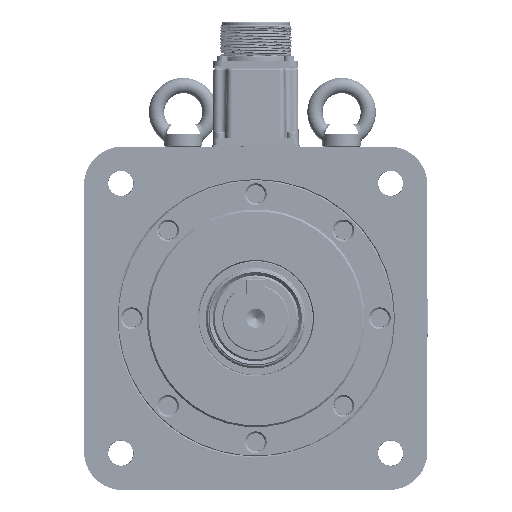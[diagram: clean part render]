
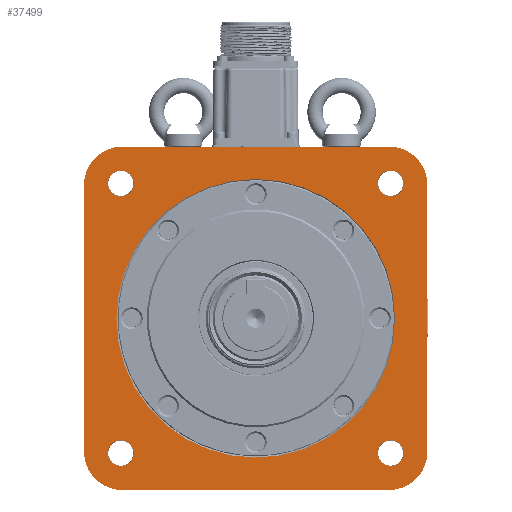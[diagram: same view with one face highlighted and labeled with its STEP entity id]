
A CAD part, front view. The second image highlights one B-rep face of the part: STEP entity #37499.
In plain terms, the highlighted planar face has unit normal (0, -1, 0).
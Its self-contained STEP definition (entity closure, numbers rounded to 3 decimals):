
#2860=LINE('',#69298,#5472);
#2942=LINE('',#73565,#5554);
#2947=LINE('',#73573,#5559);
#2952=LINE('',#73581,#5564);
#5472=VECTOR('',#48283,1000.);
#5554=VECTOR('',#49211,1000.);
#5559=VECTOR('',#49218,1000.);
#5564=VECTOR('',#49225,1000.);
#8067=PLANE('',#41072);
#15106=ORIENTED_EDGE('',*,*,#21886,.T.);
#15107=ORIENTED_EDGE('',*,*,#21799,.F.);
#15108=ORIENTED_EDGE('',*,*,#21808,.F.);
#15109=ORIENTED_EDGE('',*,*,#21831,.F.);
#15110=ORIENTED_EDGE('',*,*,#21821,.F.);
#15111=ORIENTED_EDGE('',*,*,#21857,.T.);
#15112=ORIENTED_EDGE('',*,*,#21861,.T.);
#15113=ORIENTED_EDGE('',*,*,#21852,.T.);
#15114=ORIENTED_EDGE('',*,*,#21862,.T.);
#15115=ORIENTED_EDGE('',*,*,#21847,.T.);
#15116=ORIENTED_EDGE('',*,*,#21863,.T.);
#15117=ORIENTED_EDGE('',*,*,#21376,.T.);
#15118=ORIENTED_EDGE('',*,*,#21860,.T.);
#21376=EDGE_CURVE('',#25617,#25616,#2860,.T.);
#21799=EDGE_CURVE('',#25896,#25896,#28162,.F.);
#21808=EDGE_CURVE('',#25904,#25904,#28168,.F.);
#21821=EDGE_CURVE('',#25916,#25916,#28178,.F.);
#21831=EDGE_CURVE('',#25926,#25926,#28184,.F.);
#21847=EDGE_CURVE('',#25937,#25936,#2942,.T.);
#21852=EDGE_CURVE('',#25939,#25938,#2947,.T.);
#21857=EDGE_CURVE('',#25941,#25940,#2952,.T.);
#21860=EDGE_CURVE('',#25616,#25941,#28190,.F.);
#21861=EDGE_CURVE('',#25940,#25939,#28191,.F.);
#21862=EDGE_CURVE('',#25938,#25937,#28192,.F.);
#21863=EDGE_CURVE('',#25936,#25617,#28193,.F.);
#21886=EDGE_CURVE('',#25952,#25952,#28204,.T.);
#25616=VERTEX_POINT('',#69297);
#25617=VERTEX_POINT('',#69299);
#25896=VERTEX_POINT('',#73462);
#25904=VERTEX_POINT('',#73481);
#25916=VERTEX_POINT('',#73512);
#25926=VERTEX_POINT('',#73534);
#25936=VERTEX_POINT('',#73564);
#25937=VERTEX_POINT('',#73566);
#25938=VERTEX_POINT('',#73572);
#25939=VERTEX_POINT('',#73574);
#25940=VERTEX_POINT('',#73580);
#25941=VERTEX_POINT('',#73582);
#25952=VERTEX_POINT('',#73646);
#28162=CIRCLE('',#40990,6.745);
#28168=CIRCLE('',#40998,6.745);
#28178=CIRCLE('',#41014,6.745);
#28184=CIRCLE('',#41022,6.745);
#28190=CIRCLE('',#41036,20.);
#28191=CIRCLE('',#41038,20.);
#28192=CIRCLE('',#41040,20.);
#28193=CIRCLE('',#41042,20.);
#28204=CIRCLE('',#41073,73.);
#30837=EDGE_LOOP('',(#15106));
#30838=EDGE_LOOP('',(#15107));
#30839=EDGE_LOOP('',(#15108));
#30840=EDGE_LOOP('',(#15109));
#30841=EDGE_LOOP('',(#15110));
#30842=EDGE_LOOP('',(#15111,#15112,#15113,#15114,#15115,#15116,#15117,#15118));
#34160=FACE_BOUND('',#30837,.T.);
#34161=FACE_BOUND('',#30838,.T.);
#34162=FACE_BOUND('',#30839,.T.);
#34163=FACE_BOUND('',#30840,.T.);
#34164=FACE_BOUND('',#30841,.T.);
#34165=FACE_BOUND('',#30842,.T.);
#37499=ADVANCED_FACE('',(#34160,#34161,#34162,#34163,#34164,#34165),#8067,
 .F.);
#40990=AXIS2_PLACEMENT_3D('',#73461,#49105,#49106);
#40998=AXIS2_PLACEMENT_3D('',#73480,#49124,#49125);
#41014=AXIS2_PLACEMENT_3D('',#73511,#49159,#49160);
#41022=AXIS2_PLACEMENT_3D('',#73533,#49179,#49180);
#41036=AXIS2_PLACEMENT_3D('',#73586,#49230,#49231);
#41038=AXIS2_PLACEMENT_3D('',#73588,#49234,#49235);
#41040=AXIS2_PLACEMENT_3D('',#73590,#49238,#49239);
#41042=AXIS2_PLACEMENT_3D('',#73592,#49242,#49243);
#41072=AXIS2_PLACEMENT_3D('',#73644,#49314,#49315);
#41073=AXIS2_PLACEMENT_3D('',#73645,#49316,#49317);
#48283=DIRECTION('',(-1.,0.,0.));
#49105=DIRECTION('',(0.,1.,0.));
#49106=DIRECTION('',(0.,0.,1.));
#49124=DIRECTION('',(0.,1.,0.));
#49125=DIRECTION('',(0.,0.,1.));
#49159=DIRECTION('',(0.,1.,0.));
#49160=DIRECTION('',(0.,0.,1.));
#49179=DIRECTION('',(0.,1.,0.));
#49180=DIRECTION('',(0.,0.,1.));
#49211=DIRECTION('',(0.,0.,1.));
#49218=DIRECTION('',(1.,0.,0.));
#49225=DIRECTION('',(0.,0.,-1.));
#49230=DIRECTION('',(0.,1.,0.));
#49231=DIRECTION('',(0.,0.,1.));
#49234=DIRECTION('',(0.,1.,0.));
#49235=DIRECTION('',(0.,0.,1.));
#49238=DIRECTION('',(0.,1.,0.));
#49239=DIRECTION('',(0.,0.,1.));
#49242=DIRECTION('',(0.,1.,0.));
#49243=DIRECTION('',(0.,0.,1.));
#49314=DIRECTION('',(0.,1.,0.));
#49315=DIRECTION('',(0.,0.,1.));
#49316=DIRECTION('',(0.,1.,0.));
#49317=DIRECTION('',(0.,0.,1.));
#69297=CARTESIAN_POINT('',(-70.,1.3,90.));
#69298=CARTESIAN_POINT('',(90.,1.3,90.));
#69299=CARTESIAN_POINT('',(70.,1.3,90.));
#73461=CARTESIAN_POINT('',(-70.711,1.3,70.711));
#73462=CARTESIAN_POINT('',(-70.711,1.3,77.455));
#73480=CARTESIAN_POINT('',(70.711,1.3,70.711));
#73481=CARTESIAN_POINT('',(70.711,1.3,77.455));
#73511=CARTESIAN_POINT('',(-70.711,1.3,-70.711));
#73512=CARTESIAN_POINT('',(-70.711,1.3,-63.966));
#73533=CARTESIAN_POINT('',(70.711,1.3,-70.711));
#73534=CARTESIAN_POINT('',(70.711,1.3,-63.966));
#73564=CARTESIAN_POINT('',(90.,1.3,70.));
#73565=CARTESIAN_POINT('',(90.,1.3,-90.));
#73566=CARTESIAN_POINT('',(90.,1.3,-70.));
#73572=CARTESIAN_POINT('',(70.,1.3,-90.));
#73573=CARTESIAN_POINT('',(-90.,1.3,-90.));
#73574=CARTESIAN_POINT('',(-70.,1.3,-90.));
#73580=CARTESIAN_POINT('',(-90.,1.3,-70.));
#73581=CARTESIAN_POINT('',(-90.,1.3,90.));
#73582=CARTESIAN_POINT('',(-90.,1.3,70.));
#73586=CARTESIAN_POINT('',(-70.,1.3,70.));
#73588=CARTESIAN_POINT('',(-70.,1.3,-70.));
#73590=CARTESIAN_POINT('',(70.,1.3,-70.));
#73592=CARTESIAN_POINT('',(70.,1.3,70.));
#73644=CARTESIAN_POINT('',(0.,1.3,72.5));
#73645=CARTESIAN_POINT('',(0.,1.3,0.));
#73646=CARTESIAN_POINT('',(0.,1.3,73.));
